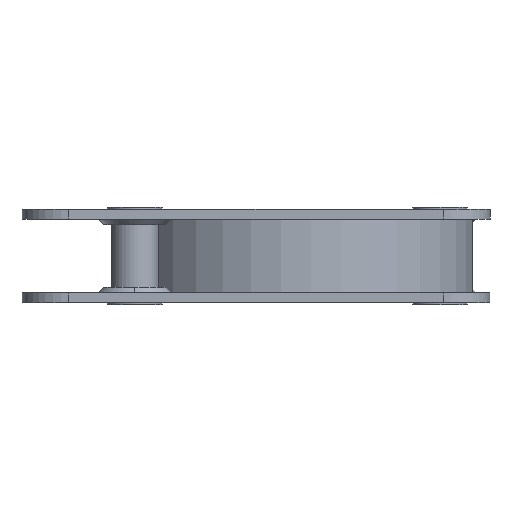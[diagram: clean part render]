
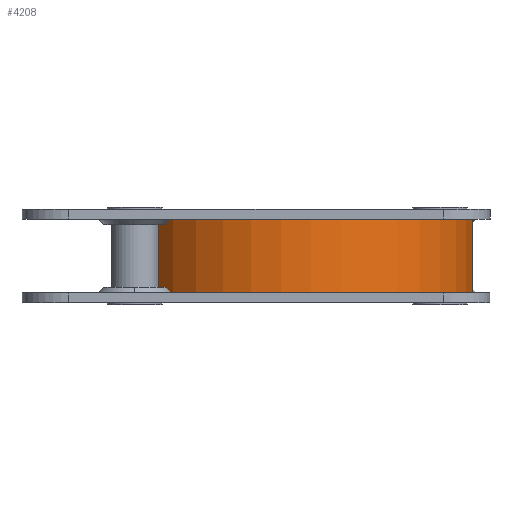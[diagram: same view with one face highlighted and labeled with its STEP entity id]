
A CAD part, front view. The second image highlights one B-rep face of the part: STEP entity #4208.
In plain terms, the highlighted cylindrical face has radius 35.56 mm (diameter 71.12 mm), a partial arc.
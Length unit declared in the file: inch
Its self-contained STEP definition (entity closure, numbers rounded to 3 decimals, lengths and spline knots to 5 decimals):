
#304 = CYLINDRICAL_SURFACE ( 'NONE', #16974, 1.4 ) ;
#634 = DIRECTION ( 'NONE',  ( 0., 0., 1. ) ) ;
#1189 = ORIENTED_EDGE ( 'NONE', *, *, #1220, .T. ) ;
#1220 = EDGE_CURVE ( 'NONE', #21988, #18107, #20838, .T. ) ;
#4029 = AXIS2_PLACEMENT_3D ( 'NONE', #8009, #27709, #25415 ) ;
#4095 = CARTESIAN_POINT ( 'NONE',  ( -0.18147, 1.88505, -0.295 ) ) ;
#4208 = ADVANCED_FACE ( 'NONE', ( #25145 ), #304, .T. ) ;
#4879 = LINE ( 'NONE', #27908, #20885 ) ;
#5213 = EDGE_CURVE ( 'NONE', #6731, #14078, #8440, .T. ) ;
#5735 = CARTESIAN_POINT ( 'NONE',  ( -1.53769, 1.53769, 0.295 ) ) ;
#6731 = VERTEX_POINT ( 'NONE', #24752 ) ;
#7093 = DIRECTION ( 'NONE',  ( 0., 0., -1. ) ) ;
#8009 = CARTESIAN_POINT ( 'NONE',  ( -1.53769, 1.53769, 0.295 ) ) ;
#8440 = CIRCLE ( 'NONE', #4029, 1.4 ) ;
#8823 = CARTESIAN_POINT ( 'NONE',  ( -0.18147, 1.88505, 0.295 ) ) ;
#10193 = DIRECTION ( 'NONE',  ( -0.969, -0.248, 0. ) ) ;
#11436 = ORIENTED_EDGE ( 'NONE', *, *, #17223, .T. ) ;
#12520 = AXIS2_PLACEMENT_3D ( 'NONE', #15762, #634, #26620 ) ;
#14078 = VERTEX_POINT ( 'NONE', #8823 ) ;
#15611 = ORIENTED_EDGE ( 'NONE', *, *, #5213, .F. ) ;
#15762 = CARTESIAN_POINT ( 'NONE',  ( -1.53769, 1.53769, -0.295 ) ) ;
#16619 = CARTESIAN_POINT ( 'NONE',  ( -2.89391, 1.19033, -0.295 ) ) ;
#16974 = AXIS2_PLACEMENT_3D ( 'NONE', #5735, #25605, #10193 ) ;
#17223 = EDGE_CURVE ( 'NONE', #6731, #21988, #27105, .T. ) ;
#18107 = VERTEX_POINT ( 'NONE', #4095 ) ;
#19553 = ORIENTED_EDGE ( 'NONE', *, *, #24205, .F. ) ;
#19772 = EDGE_LOOP ( 'NONE', ( #19553, #15611, #11436, #1189 ) ) ;
#20838 = CIRCLE ( 'NONE', #12520, 1.4 ) ;
#20885 = VECTOR ( 'NONE', #23801, 39.37008 ) ;
#21988 = VERTEX_POINT ( 'NONE', #16619 ) ;
#23356 = VECTOR ( 'NONE', #7093, 39.37008 ) ;
#23801 = DIRECTION ( 'NONE',  ( 0., 0., -1. ) ) ;
#24205 = EDGE_CURVE ( 'NONE', #14078, #18107, #4879, .T. ) ;
#24752 = CARTESIAN_POINT ( 'NONE',  ( -2.89391, 1.19033, 0.295 ) ) ;
#25145 = FACE_OUTER_BOUND ( 'NONE', #19772, .T. ) ;
#25415 = DIRECTION ( 'NONE',  ( 0.969, 0.248, 0. ) ) ;
#25605 = DIRECTION ( 'NONE',  ( 0., 0., -1. ) ) ;
#26232 = CARTESIAN_POINT ( 'NONE',  ( -2.89391, 1.19033, 0.295 ) ) ;
#26620 = DIRECTION ( 'NONE',  ( 0.969, 0.248, 0. ) ) ;
#27105 = LINE ( 'NONE', #26232, #23356 ) ;
#27709 = DIRECTION ( 'NONE',  ( 0., 0., 1. ) ) ;
#27908 = CARTESIAN_POINT ( 'NONE',  ( -0.18147, 1.88505, 0.295 ) ) ;
